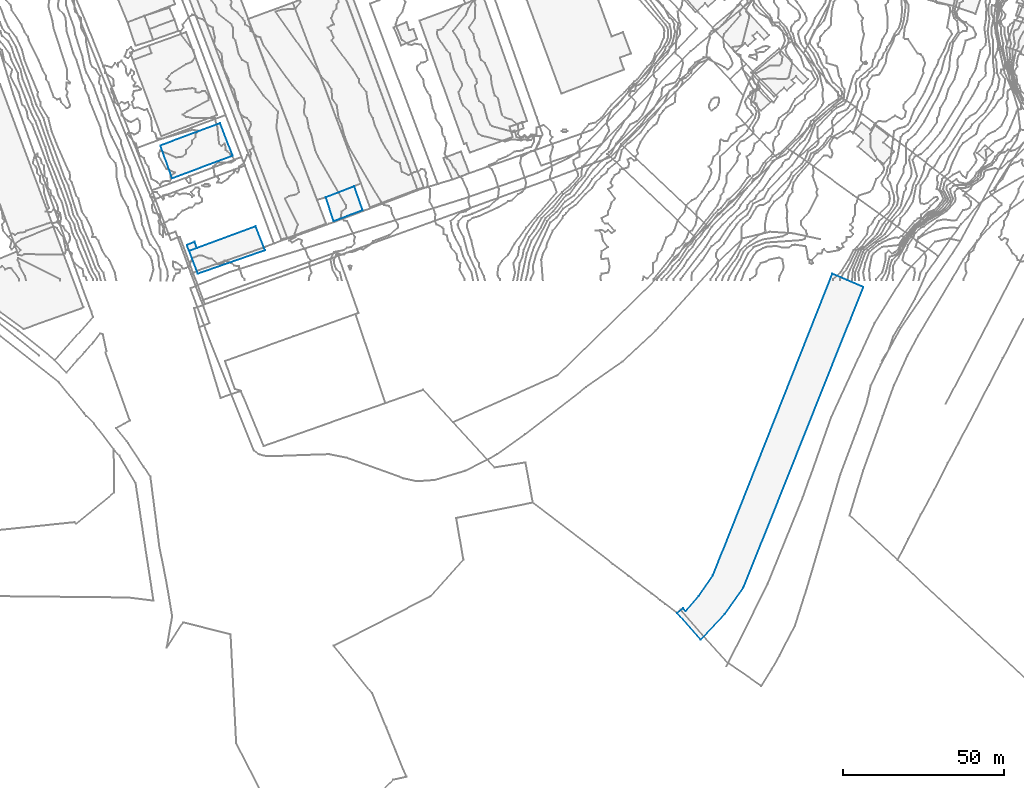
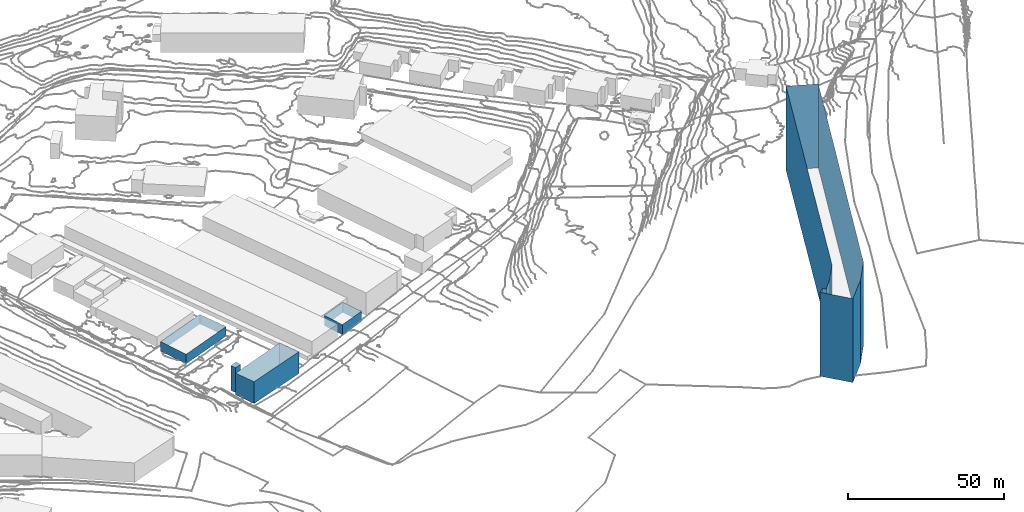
# Not in any storey, part 32 of 419: 5 walls.
"""IFC2X3 model written with IfcOpenShell, lengths in metres."""

from ifc_helpers import new_model, si_unit, frame, origin_with_axes, place, context, subcontext, project, faceted_brep, element, save


model = new_model("IFC2X3")

# Units and contexts
model_context = context("Model", 3, precision=1e-05, world=origin_with_axes())
body_context = subcontext(model_context, "Body", "Model", "MODEL_VIEW")
ifc_project = project(units=[si_unit("AREAUNIT", "SQUARE_METRE"), si_unit("LENGTHUNIT", "METRE")], contexts=[model_context])

# Walls
wall_1_placement = place(None, frame((357.0920204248, 7.6976909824, 19.3652006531), z_axis=(0.0, 0.0, 1.0), x_axis=(1.0, 0.0, 0.0)))
element("IfcWall", 1, at=wall_1_placement, Name="Mur 0", context=body_context, shape_type="Brep", body=[
    faceted_brep([(23.5, 0.2000000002, 8.5347993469), (2.7, -7.0999999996, 8.5347993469), (23.5, 0.2000000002, 0.0), (2.7, -7.0999999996, 0.0), (20.6, 7.6000000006, 8.5347993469), (20.6, 7.6000000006, 0.0), (0.0, 0.0, 8.5347993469), (0.0, 0.0, 0.0)], [[[0, 1, 2]], [[2, 1, 3]], [[4, 0, 5]], [[5, 0, 2]], [[1, 6, 3]], [[3, 6, 7]], [[6, 4, 7]], [[7, 4, 5]]]),
])
wall_2_placement = place(None, frame((508.4920204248, -104.6023090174, 41.7790016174), z_axis=(0.0, 0.0, 1.0), x_axis=(1.0, 0.0, 0.0)))
element("IfcWall", 2, at=wall_2_placement, Name="Mur 0", context=body_context, shape_type="Brep", body=[
    faceted_brep([(7.2999999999, -8.2999999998, 32.8209983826), (0.0, 0.0, 32.8209983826), (7.2999999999, -8.2999999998, 0.0), (0.0, 0.0, 0.0), (14.7, -0.4000000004, 32.8209983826), (14.7, -0.4000000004, 0.0), (20.5, 7.7999999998, 32.8209983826), (20.5, 7.7999999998, 0.0), (57.7, 101.0999999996, 32.8209983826), (57.7, 101.0999999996, 0.0), (48.1, 105.2000000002, 32.8209983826), (48.1, 105.2000000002, 0.0), (11.0, 11.5, 32.8209983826), (11.0, 11.5, 0.0), (6.6, 5.2000000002, 32.8209983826), (6.6, 5.2000000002, 0.0), (2.6, 0.5999999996, 32.8209983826), (2.6, 0.5999999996, 0.0), (1.7999999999, 1.5, 32.8209983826), (1.7999999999, 1.5, 0.0)], [[[0, 1, 2]], [[2, 1, 3]], [[4, 0, 5]], [[5, 0, 2]], [[6, 4, 7]], [[7, 4, 5]], [[8, 6, 9]], [[9, 6, 7]], [[10, 8, 11]], [[11, 8, 9]], [[12, 10, 13]], [[13, 10, 11]], [[14, 12, 15]], [[15, 12, 13]], [[16, 14, 17]], [[17, 14, 15]], [[1, 18, 3]], [[3, 18, 19]], [[18, 16, 19]], [[19, 16, 17]]]),
])
wall_3_placement = place(None, frame((356.3920204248, 9.4976909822, 20.2654003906), z_axis=(0.0, 0.0, 1.0), x_axis=(1.0, 0.0, 0.0)))
element("IfcWall", 3, at=wall_3_placement, Name="Mur 0", context=body_context, shape_type="Brep", body=[
    faceted_brep([(3.1, -0.8999999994, 9.7345996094), (0.7, -1.7999999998, 9.7345996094), (3.1, -0.8999999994, 0.0), (0.7, -1.7999999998, 0.0), (2.3999999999, 1.0, 9.7345996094), (2.3999999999, 1.0, 0.0), (0.0, 0.0, 9.7345996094), (0.0, 0.0, 0.0)], [[[0, 1, 2]], [[2, 1, 3]], [[4, 0, 5]], [[5, 0, 2]], [[1, 6, 3]], [[3, 6, 7]], [[6, 4, 7]], [[7, 4, 5]]]),
])
wall_4_placement = place(None, frame((348.1920204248, 40.3976909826, 19.7797005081), z_axis=(0.0, 0.0, 1.0), x_axis=(1.0, 0.0, 0.0)))
element("IfcWall", 4, at=wall_4_placement, Name="Mur 0", context=body_context, shape_type="Brep", body=[
    faceted_brep([(18.5, 6.9000000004, 3.7202994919), (22.4, -3.2000000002, 3.7202994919), (18.5, 6.9000000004, 0.0), (22.4, -3.2000000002, 0.0), (0.0, 0.0, 3.7202994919), (0.0, 0.0, 0.0), (3.6, -10.2000000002, 3.7202994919), (3.6, -10.2000000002, 0.0)], [[[0, 1, 2]], [[2, 1, 3]], [[4, 0, 5]], [[5, 0, 2]], [[1, 6, 3]], [[3, 6, 7]], [[6, 4, 7]], [[7, 4, 5]]]),
])
wall_5_placement = place(None, frame((399.4920204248, 24.2976909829, 21.6103007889), z_axis=(0.0, 0.0, 1.0), x_axis=(1.0, 0.0, 0.0)))
element("IfcWall", 5, at=wall_5_placement, Name="Mur 0", context=body_context, shape_type="Brep", body=[
    faceted_brep([(11.4, -4.0, 3.9896992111), (2.4, -7.4000000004, 3.9896992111), (11.4, -4.0, 0.0), (2.4, -7.4000000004, 0.0), (8.7999999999, 3.3999999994, 3.9896992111), (8.7999999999, 3.3999999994, 0.0), (0.0, 0.0, 3.9896992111), (0.0, 0.0, 0.0)], [[[0, 1, 2]], [[2, 1, 3]], [[4, 0, 5]], [[5, 0, 2]], [[1, 6, 3]], [[3, 6, 7]], [[6, 4, 7]], [[7, 4, 5]]]),
])

save(model, "model.ifc")
